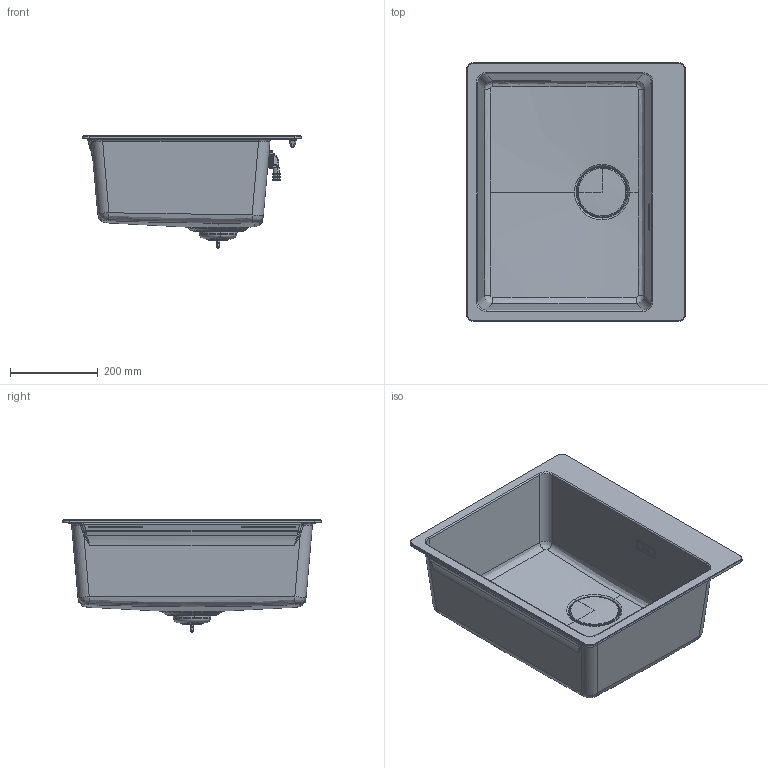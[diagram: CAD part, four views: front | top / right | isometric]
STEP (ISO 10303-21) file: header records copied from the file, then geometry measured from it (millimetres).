
FILE_DESCRIPTION(/* description */ (''),/* implementation_level */ '2;1');
FILE_NAME(/* name */ '3D001_Sinks_Maris_MRG-610-54-FTL',/* time_stamp */ '2024-07-31T13:17:55+02:00',/* author */ (''),/* organization */ (''),/* preprocessor_version */ 'ST-DEVELOPER v19.2',/* originating_system */ 'Rhino 8.8',/* authorisation */ '');
FILE_SCHEMA (('CONFIG_CONTROL_DESIGN'));
Products named in the file (1): Document
Bounding box: 500 x 590 x 256.56 mm (x, y, z)
Volume: 4481027.7 mm3; surface area: 1316008.6 mm2
Topology: 18 solids, 23 shells, 3620 faces, 9557 edges, 6059 vertices
Faces by surface type: plane 1545, cylinder 1069, bspline 1006
Entity records: 154779 total; most frequent: CARTESIAN_POINT 80163, ORIENTED_EDGE 18905, EDGE_CURVE 9523, DIRECTION 8286, B_SPLINE_CURVE_WITH_KNOTS 6379, VERTEX_POINT 6059, AXIS2_PLACEMENT_3D 5450, EDGE_LOOP 3829
